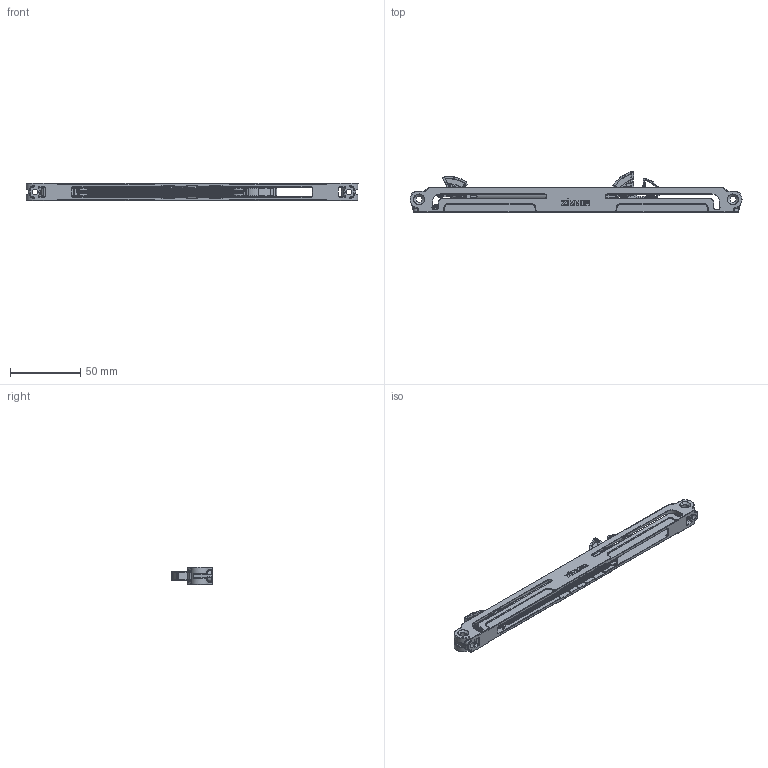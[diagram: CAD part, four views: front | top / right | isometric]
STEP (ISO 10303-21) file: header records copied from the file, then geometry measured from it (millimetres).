
FILE_DESCRIPTION((''),'2;1');
FILE_NAME('E050-08-354_SW0001','2024-12-06T11:23:33',('fkoehl'),(''),'CREO PARAMETRIC BY PTC INC, 2022124','CREO PARAMETRIC BY PTC INC, 2022124','');
FILE_SCHEMA(('AUTOMOTIVE_DESIGN { 1 0 10303 214 1 1 1 1 }'));
Length unit declared in the file: millimetre
Products named in the file (1): E050-08-354_SW0001
Bounding box: 237 x 28.9 x 12.2 mm (x, y, z)
Volume: 22914.7 mm3; surface area: 30650.5 mm2
Topology: 2 solids, 3 shells, 3155 faces, 7511 edges, 4374 vertices
Faces by surface type: cylinder 1085, torus 757, bspline 731, plane 525, sphere 28, cone 28, extrusion 1
Entity records: 197987 total; most frequent: CARTESIAN_POINT 83078, ORIENTED_EDGE 15018, DIRECTION 14187, PRESENTATION_STYLE_ASSIGNMENT 10668, STYLED_ITEM 7513, CURVE_STYLE 7510, EDGE_CURVE 7509, AXIS2_PLACEMENT_3D 5958
